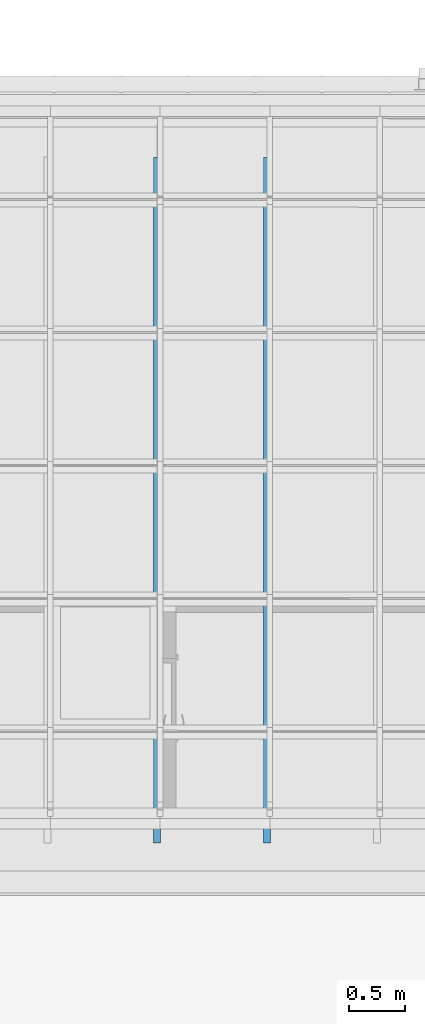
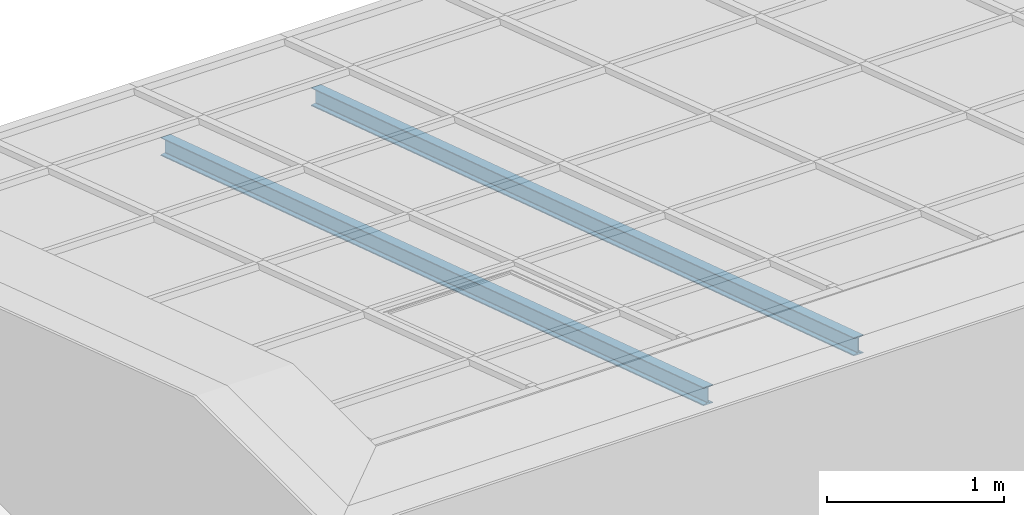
# One storey, part 2 of 47: 2 beams.
"""IFC2X3 building model written with IfcOpenShell, lengths in millimetres."""

from ifc_helpers import new_model, entity, si_unit, converted_unit, derived_unit, money_unit, point, direction, frame, frame_2d, origin_with_axes, place, context, subcontext, project, spatial, polyline, circle_curve, parameter, trimmed, segment, composite_curve, outline, extrude, clip, halfspace, material, type_object, element, save


model = new_model("IFC2X3")

# Units and contexts
model_context = context("Model", 3, precision=1e-05, world=origin_with_axes(), true_north=direction((0.0, 1.0)))
body_context = subcontext(model_context, "Body", "Model", "MODEL_VIEW")
ifc_project = project(units=[si_unit("LENGTHUNIT", "METRE", prefix="MILLI"), si_unit("AREAUNIT", "SQUARE_METRE"), si_unit("VOLUMEUNIT", "CUBIC_METRE"), converted_unit("PLANEANGLEUNIT", "DEGREE", entity("IfcPlaneAngleMeasure", 0.0174532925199), si_unit("PLANEANGLEUNIT", "RADIAN"), dimensions=[0, 0, 0, 0, 0, 0, 0]), si_unit("SOLIDANGLEUNIT", "STERADIAN"), money_unit("EUR"), converted_unit("TIMEUNIT", "Year", entity("IfcTimeMeasure", 31556926.0), si_unit("TIMEUNIT", "SECOND"), dimensions=[0, 0, 1, 0, 0, 0, 0]), si_unit("MASSUNIT", "GRAM", prefix="KILO"), si_unit("THERMODYNAMICTEMPERATUREUNIT", "DEGREE_CELSIUS"), si_unit("LUMINOUSINTENSITYUNIT", "LUMEN"), si_unit("ENERGYUNIT", "JOULE", prefix="MEGA"), derived_unit("THERMALCONDUCTANCEUNIT", [(si_unit("POWERUNIT", "WATT"), 1), (si_unit("LENGTHUNIT", "METRE"), -1), (si_unit("THERMODYNAMICTEMPERATUREUNIT", "KELVIN"), -1)]), derived_unit("SPECIFICHEATCAPACITYUNIT", [(si_unit("ENERGYUNIT", "JOULE"), 1), (si_unit("MASSUNIT", "GRAM", prefix="KILO"), -1), (si_unit("THERMODYNAMICTEMPERATUREUNIT", "KELVIN"), -1)]), derived_unit("MASSDENSITYUNIT", [(si_unit("MASSUNIT", "GRAM", prefix="KILO"), 1), (si_unit("VOLUMEUNIT", "CUBIC_METRE"), -1)])], contexts=[model_context])

# Site, building, storey
site_placement = place(None, origin_with_axes())
site = spatial("IfcSite", under=ifc_project, at=site_placement, Name="Site", CompositionType="ELEMENT")
building_placement = place(site_placement, origin_with_axes())
building = spatial("IfcBuilding", under=site, at=building_placement, Name="Building", CompositionType="ELEMENT")
storey_placement = place(building_placement, frame((0.0, 0.0, 6000.0), z_axis=(0.0, 0.0, 1.0), x_axis=(1.0, 0.0, 0.0)))
storey = spatial("IfcBuildingStorey", under=building, at=storey_placement, Name="KATUSEPLAAN", CompositionType="ELEMENT", Elevation=6000.0)

# Beams
ifc_material = material(Name="Teras (1)")
beam_type = type_object("IfcBeamType", Name="IPE 120", PredefinedType="NOTDEFINED")
beam_1_placement = place(storey_placement, frame((67193.0817676, 46947.8063411, 699.678842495), z_axis=(0.0, 0.0, 1.0), x_axis=(-1.0, 0.0, 0.0)))
element("IfcBeam", 1, at=beam_1_placement, inside=storey, type_object=beam_type, material=ifc_material, Name="I Joist - Steel", ObjectType="I Joist - Steel 64 x 120", context=body_context, shape_type="Clipping", body=[
    clip(clip(extrude(outline(composite_curve([segment(polyline([(32.0018479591, -120.000212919), (32.0018479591, -117.505222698)]), True, "CONTINUOUS"), segment(trimmed(circle_curve(frame_2d((27.3321376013, -117.498683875), x_axis=(0.999999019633, -0.00140026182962)), 4.66971493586), [point((32.0018479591, -117.505222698)), parameter(0.0)], [point((31.7461003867, -115.974488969)), parameter(19.1306436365)], True, "CARTESIAN"), True, "CONTINUOUS"), segment(trimmed(circle_curve(frame_2d((27.8471066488, -117.309508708), x_axis=(0.94607823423, 0.323938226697)), 4.12121703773), [point((31.7461003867, -115.974488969)), parameter(0.0)], [point((31.017792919, -114.676795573)), parameter(20.802576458)], True, "CARTESIAN"), True, "CONTINUOUS"), segment(trimmed(circle_curve(frame_2d((28.4090653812, -116.837495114), x_axis=(0.770140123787, 0.637874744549)), 3.38734141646), [point((31.017792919, -114.676795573)), parameter(0.0)], [point((29.9278037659, -113.809704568)), parameter(23.7281511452)], True, "CARTESIAN"), True, "CONTINUOUS"), segment(trimmed(circle_curve(frame_2d((28.6333599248, -116.404648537), x_axis=(0.446378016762, 0.89484449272)), 2.89988259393), [point((29.9278037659, -113.809704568)), parameter(0.0)], [point((29.1110817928, -113.544386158)), parameter(17.0295027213)], True, "CARTESIAN"), True, "CONTINUOUS"), segment(polyline([(29.1110817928, -113.544386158), (5.24260801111, -109.566039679)]), True, "CONTINUOUS"), segment(trimmed(circle_curve(frame_2d((5.72032987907, -106.7057773), x_axis=(-0.446378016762, -0.89484449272)), 2.89988259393), [point((5.24260801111, -109.566039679)), parameter(17.0295027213)], [point((4.42588603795, -109.300721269)), parameter(0.0)], False, "CARTESIAN"), True, "CONTINUOUS"), segment(trimmed(circle_curve(frame_2d((5.94462442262, -106.272930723), x_axis=(-0.770140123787, -0.637874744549)), 3.38734141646), [point((4.42588603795, -109.300721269)), parameter(23.7281511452)], [point((3.33589688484, -108.433630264)), parameter(0.0)], False, "CARTESIAN"), True, "CONTINUOUS"), segment(trimmed(circle_curve(frame_2d((6.5065831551, -105.800917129), x_axis=(-0.94607823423, -0.323938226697)), 4.12121703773), [point((3.33589688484, -108.433630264)), parameter(20.802576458)], [point((2.60758941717, -107.135936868)), parameter(0.0)], False, "CARTESIAN"), True, "CONTINUOUS"), segment(trimmed(circle_curve(frame_2d((7.02155220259, -105.611741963), x_axis=(-0.999999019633, 0.00140026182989)), 4.66971493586), [point((2.60758941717, -107.135936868)), parameter(19.1306436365)], [point((2.35184184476, -105.605203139)), parameter(0.0)], False, "CARTESIAN"), True, "CONTINUOUS"), segment(polyline([(2.35184184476, -105.605203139), (2.35184184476, -14.3950097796)]), True, "CONTINUOUS"), segment(trimmed(circle_curve(frame_2d((7.02155220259, -14.3884709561), x_axis=(-0.945231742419, 0.326399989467)), 4.66971493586), [point((2.35184184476, -14.3950097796)), parameter(19.1306436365)], [point((2.60758941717, -12.8642760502)), parameter(0.0)], False, "CARTESIAN"), True, "CONTINUOUS"), segment(trimmed(circle_curve(frame_2d((6.5065831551, -14.1992957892), x_axis=(-0.769356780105, 0.638819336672)), 4.12121703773), [point((2.60758941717, -12.8642760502)), parameter(20.802576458)], [point((3.33589688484, -11.5665826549)), parameter(0.0)], False, "CARTESIAN"), True, "CONTINUOUS"), segment(trimmed(circle_curve(frame_2d((5.94462442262, -13.7272821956), x_axis=(-0.44835704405, 0.893854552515)), 3.38734141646), [point((3.33589688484, -11.5665826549)), parameter(23.7281511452)], [point((4.42588603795, -10.6994916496)), parameter(0.0)], False, "CARTESIAN"), True, "CONTINUOUS"), segment(trimmed(circle_curve(frame_2d((5.72032987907, -13.2944356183), x_axis=(-0.164738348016, 0.986337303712)), 2.89988259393), [point((4.42588603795, -10.6994916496)), parameter(17.0295027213)], [point((5.24260801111, -10.4341732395)), parameter(0.0)], False, "CARTESIAN"), True, "CONTINUOUS"), segment(polyline([(5.24260801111, -10.4341732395), (29.1110817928, -6.45582676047)]), True, "CONTINUOUS"), segment(trimmed(circle_curve(frame_2d((28.6333599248, -3.59556438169), x_axis=(0.164738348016, -0.986337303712)), 2.89988259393), [point((29.1110817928, -6.45582676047)), parameter(0.0)], [point((29.9278037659, -6.19050835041)), parameter(17.0295027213)], True, "CARTESIAN"), True, "CONTINUOUS"), segment(trimmed(circle_curve(frame_2d((28.4090653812, -3.16271780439), x_axis=(0.44835704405, -0.893854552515)), 3.38734141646), [point((29.9278037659, -6.19050835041)), parameter(0.0)], [point((31.017792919, -5.32341734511)), parameter(23.7281511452)], True, "CARTESIAN"), True, "CONTINUOUS"), segment(trimmed(circle_curve(frame_2d((27.8471066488, -2.69070421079), x_axis=(0.769356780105, -0.638819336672)), 4.12121703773), [point((31.017792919, -5.32341734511)), parameter(0.0)], [point((31.7461003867, -4.02572394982)), parameter(20.802576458)], True, "CARTESIAN"), True, "CONTINUOUS"), segment(trimmed(circle_curve(frame_2d((27.3321376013, -2.50152904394), x_axis=(0.945231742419, -0.326399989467)), 4.66971493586), [point((31.7461003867, -4.02572394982)), parameter(0.0)], [point((32.0018479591, -2.49499022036)), parameter(19.1306436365)], True, "CARTESIAN"), True, "CONTINUOUS"), segment(polyline([(32.0018479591, -2.49499022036), (32.0018479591, 0.0), (-32.0018479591, 0.0), (-32.0018479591, -2.49499022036)]), True, "CONTINUOUS"), segment(trimmed(circle_curve(frame_2d((-27.3321376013, -2.50152904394), x_axis=(-0.999999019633, 0.00140026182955)), 4.66971493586), [point((-32.0018479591, -2.49499022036)), parameter(0.0)], [point((-31.7461003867, -4.02572394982)), parameter(19.1306436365)], True, "CARTESIAN"), True, "CONTINUOUS"), segment(trimmed(circle_curve(frame_2d((-27.8471066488, -2.69070421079), x_axis=(-0.94607823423, -0.323938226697)), 4.12121703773), [point((-31.7461003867, -4.02572394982)), parameter(0.0)], [point((-31.017792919, -5.32341734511)), parameter(20.802576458)], True, "CARTESIAN"), True, "CONTINUOUS"), segment(trimmed(circle_curve(frame_2d((-28.4090653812, -3.16271780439), x_axis=(-0.770140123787, -0.637874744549)), 3.38734141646), [point((-31.017792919, -5.32341734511)), parameter(0.0)], [point((-29.9278037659, -6.19050835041)), parameter(23.7281511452)], True, "CARTESIAN"), True, "CONTINUOUS"), segment(trimmed(circle_curve(frame_2d((-28.6333599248, -3.59556438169), x_axis=(-0.446378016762, -0.89484449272)), 2.89988259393), [point((-29.9278037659, -6.19050835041)), parameter(0.0)], [point((-29.1110817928, -6.45582676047)), parameter(17.0295027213)], True, "CARTESIAN"), True, "CONTINUOUS"), segment(polyline([(-29.1110817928, -6.45582676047), (-5.24260801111, -10.4341732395)]), True, "CONTINUOUS"), segment(trimmed(circle_curve(frame_2d((-5.72032987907, -13.2944356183), x_axis=(0.446378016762, 0.89484449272)), 2.89988259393), [point((-5.24260801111, -10.4341732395)), parameter(17.0295027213)], [point((-4.42588603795, -10.6994916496)), parameter(0.0)], False, "CARTESIAN"), True, "CONTINUOUS"), segment(trimmed(circle_curve(frame_2d((-5.94462442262, -13.7272821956), x_axis=(0.770140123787, 0.637874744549)), 3.38734141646), [point((-4.42588603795, -10.6994916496)), parameter(23.7281511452)], [point((-3.33589688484, -11.5665826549)), parameter(0.0)], False, "CARTESIAN"), True, "CONTINUOUS"), segment(trimmed(circle_curve(frame_2d((-6.5065831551, -14.1992957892), x_axis=(0.94607823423, 0.323938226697)), 4.12121703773), [point((-3.33589688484, -11.5665826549)), parameter(20.802576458)], [point((-2.60758941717, -12.8642760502)), parameter(0.0)], False, "CARTESIAN"), True, "CONTINUOUS"), segment(trimmed(circle_curve(frame_2d((-7.02155220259, -14.3884709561), x_axis=(0.999999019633, -0.00140026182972)), 4.66971493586), [point((-2.60758941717, -12.8642760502)), parameter(19.1306436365)], [point((-2.35184184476, -14.3950097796)), parameter(0.0)], False, "CARTESIAN"), True, "CONTINUOUS"), segment(polyline([(-2.35184184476, -14.3950097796), (-2.35184184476, -105.605203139)]), True, "CONTINUOUS"), segment(trimmed(circle_curve(frame_2d((-7.02155220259, -105.611741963), x_axis=(0.945231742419, -0.326399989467)), 4.66971493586), [point((-2.35184184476, -105.605203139)), parameter(19.1306436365)], [point((-2.60758941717, -107.135936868)), parameter(0.0)], False, "CARTESIAN"), True, "CONTINUOUS"), segment(trimmed(circle_curve(frame_2d((-6.5065831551, -105.800917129), x_axis=(0.769356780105, -0.638819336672)), 4.12121703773), [point((-2.60758941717, -107.135936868)), parameter(20.802576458)], [point((-3.33589688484, -108.433630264)), parameter(0.0)], False, "CARTESIAN"), True, "CONTINUOUS"), segment(trimmed(circle_curve(frame_2d((-5.94462442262, -106.272930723), x_axis=(0.44835704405, -0.893854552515)), 3.38734141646), [point((-3.33589688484, -108.433630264)), parameter(23.7281511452)], [point((-4.42588603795, -109.300721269)), parameter(0.0)], False, "CARTESIAN"), True, "CONTINUOUS"), segment(trimmed(circle_curve(frame_2d((-5.72032987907, -106.7057773), x_axis=(0.164738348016, -0.986337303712)), 2.89988259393), [point((-4.42588603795, -109.300721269)), parameter(17.0295027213)], [point((-5.24260801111, -109.566039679)), parameter(0.0)], False, "CARTESIAN"), True, "CONTINUOUS"), segment(polyline([(-5.24260801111, -109.566039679), (-29.1110817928, -113.544386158)]), True, "CONTINUOUS"), segment(trimmed(circle_curve(frame_2d((-28.6333599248, -116.404648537), x_axis=(-0.164738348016, 0.986337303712)), 2.89988259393), [point((-29.1110817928, -113.544386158)), parameter(0.0)], [point((-29.9278037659, -113.809704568)), parameter(17.0295027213)], True, "CARTESIAN"), True, "CONTINUOUS"), segment(trimmed(circle_curve(frame_2d((-28.4090653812, -116.837495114), x_axis=(-0.44835704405, 0.893854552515)), 3.38734141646), [point((-29.9278037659, -113.809704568)), parameter(0.0)], [point((-31.017792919, -114.676795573)), parameter(23.7281511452)], True, "CARTESIAN"), True, "CONTINUOUS"), segment(trimmed(circle_curve(frame_2d((-27.8471066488, -117.309508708), x_axis=(-0.769356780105, 0.638819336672)), 4.12121703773), [point((-31.017792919, -114.676795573)), parameter(0.0)], [point((-31.7461003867, -115.974488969)), parameter(20.802576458)], True, "CARTESIAN"), True, "CONTINUOUS"), segment(trimmed(circle_curve(frame_2d((-27.3321376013, -117.498683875), x_axis=(-0.945231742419, 0.326399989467)), 4.66971493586), [point((-31.7461003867, -115.974488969)), parameter(0.0)], [point((-32.0018479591, -117.505222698)), parameter(19.1306436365)], True, "CARTESIAN"), True, "CONTINUOUS"), segment(polyline([(-32.0018479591, -117.505222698), (-32.0018479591, -120.000212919), (32.0018479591, -120.000212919)]), True, "CONTINUOUS")], self_intersect=False)), frame((0.0, 6177.44201598, 2007.17258333), z_axis=(0.0, 0.951056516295, 0.309016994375), x_axis=(-1.0, 0.0, 0.0)), (0.0, 0.0, -1.0), 6550.487721), halfspace(frame((0.0, 6125.0, 0.0), z_axis=(0.0, -1.0, 0.0), x_axis=(0.0, 0.0, -1.0)), True)), halfspace(frame((0.0, 0.0, 0.0), z_axis=(0.0, 1.0, 0.0), x_axis=(0.0, 0.0, 1.0)), True)),
])
beam_2_placement = place(storey_placement, frame((66213.0498253, 46947.8063411, 699.678842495), z_axis=(0.0, 0.0, 1.0), x_axis=(-1.0, 0.0, 0.0)))
element("IfcBeam", 2, at=beam_2_placement, inside=storey, type_object=beam_type, material=ifc_material, Name="I Joist - Steel", ObjectType="I Joist - Steel 64 x 120", context=body_context, shape_type="Clipping", body=[
    clip(clip(extrude(outline(composite_curve([segment(polyline([(32.0018479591, -120.000212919), (32.0018479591, -117.505222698)]), True, "CONTINUOUS"), segment(trimmed(circle_curve(frame_2d((27.3321376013, -117.498683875), x_axis=(0.999999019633, -0.00140026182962)), 4.66971493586), [point((32.0018479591, -117.505222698)), parameter(0.0)], [point((31.7461003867, -115.974488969)), parameter(19.1306436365)], True, "CARTESIAN"), True, "CONTINUOUS"), segment(trimmed(circle_curve(frame_2d((27.8471066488, -117.309508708), x_axis=(0.94607823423, 0.323938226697)), 4.12121703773), [point((31.7461003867, -115.974488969)), parameter(0.0)], [point((31.017792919, -114.676795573)), parameter(20.802576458)], True, "CARTESIAN"), True, "CONTINUOUS"), segment(trimmed(circle_curve(frame_2d((28.4090653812, -116.837495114), x_axis=(0.770140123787, 0.637874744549)), 3.38734141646), [point((31.017792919, -114.676795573)), parameter(0.0)], [point((29.9278037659, -113.809704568)), parameter(23.7281511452)], True, "CARTESIAN"), True, "CONTINUOUS"), segment(trimmed(circle_curve(frame_2d((28.6333599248, -116.404648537), x_axis=(0.446378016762, 0.89484449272)), 2.89988259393), [point((29.9278037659, -113.809704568)), parameter(0.0)], [point((29.1110817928, -113.544386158)), parameter(17.0295027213)], True, "CARTESIAN"), True, "CONTINUOUS"), segment(polyline([(29.1110817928, -113.544386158), (5.24260801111, -109.566039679)]), True, "CONTINUOUS"), segment(trimmed(circle_curve(frame_2d((5.72032987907, -106.7057773), x_axis=(-0.446378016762, -0.89484449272)), 2.89988259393), [point((5.24260801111, -109.566039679)), parameter(17.0295027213)], [point((4.42588603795, -109.300721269)), parameter(0.0)], False, "CARTESIAN"), True, "CONTINUOUS"), segment(trimmed(circle_curve(frame_2d((5.94462442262, -106.272930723), x_axis=(-0.770140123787, -0.637874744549)), 3.38734141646), [point((4.42588603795, -109.300721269)), parameter(23.7281511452)], [point((3.33589688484, -108.433630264)), parameter(0.0)], False, "CARTESIAN"), True, "CONTINUOUS"), segment(trimmed(circle_curve(frame_2d((6.5065831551, -105.800917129), x_axis=(-0.94607823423, -0.323938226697)), 4.12121703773), [point((3.33589688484, -108.433630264)), parameter(20.802576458)], [point((2.60758941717, -107.135936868)), parameter(0.0)], False, "CARTESIAN"), True, "CONTINUOUS"), segment(trimmed(circle_curve(frame_2d((7.02155220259, -105.611741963), x_axis=(-0.999999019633, 0.00140026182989)), 4.66971493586), [point((2.60758941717, -107.135936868)), parameter(19.1306436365)], [point((2.35184184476, -105.605203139)), parameter(0.0)], False, "CARTESIAN"), True, "CONTINUOUS"), segment(polyline([(2.35184184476, -105.605203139), (2.35184184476, -14.3950097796)]), True, "CONTINUOUS"), segment(trimmed(circle_curve(frame_2d((7.02155220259, -14.3884709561), x_axis=(-0.945231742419, 0.326399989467)), 4.66971493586), [point((2.35184184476, -14.3950097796)), parameter(19.1306436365)], [point((2.60758941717, -12.8642760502)), parameter(0.0)], False, "CARTESIAN"), True, "CONTINUOUS"), segment(trimmed(circle_curve(frame_2d((6.5065831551, -14.1992957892), x_axis=(-0.769356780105, 0.638819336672)), 4.12121703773), [point((2.60758941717, -12.8642760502)), parameter(20.802576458)], [point((3.33589688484, -11.5665826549)), parameter(0.0)], False, "CARTESIAN"), True, "CONTINUOUS"), segment(trimmed(circle_curve(frame_2d((5.94462442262, -13.7272821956), x_axis=(-0.44835704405, 0.893854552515)), 3.38734141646), [point((3.33589688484, -11.5665826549)), parameter(23.7281511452)], [point((4.42588603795, -10.6994916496)), parameter(0.0)], False, "CARTESIAN"), True, "CONTINUOUS"), segment(trimmed(circle_curve(frame_2d((5.72032987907, -13.2944356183), x_axis=(-0.164738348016, 0.986337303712)), 2.89988259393), [point((4.42588603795, -10.6994916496)), parameter(17.0295027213)], [point((5.24260801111, -10.4341732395)), parameter(0.0)], False, "CARTESIAN"), True, "CONTINUOUS"), segment(polyline([(5.24260801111, -10.4341732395), (29.1110817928, -6.45582676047)]), True, "CONTINUOUS"), segment(trimmed(circle_curve(frame_2d((28.6333599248, -3.59556438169), x_axis=(0.164738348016, -0.986337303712)), 2.89988259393), [point((29.1110817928, -6.45582676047)), parameter(0.0)], [point((29.9278037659, -6.19050835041)), parameter(17.0295027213)], True, "CARTESIAN"), True, "CONTINUOUS"), segment(trimmed(circle_curve(frame_2d((28.4090653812, -3.16271780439), x_axis=(0.44835704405, -0.893854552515)), 3.38734141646), [point((29.9278037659, -6.19050835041)), parameter(0.0)], [point((31.017792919, -5.32341734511)), parameter(23.7281511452)], True, "CARTESIAN"), True, "CONTINUOUS"), segment(trimmed(circle_curve(frame_2d((27.8471066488, -2.69070421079), x_axis=(0.769356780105, -0.638819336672)), 4.12121703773), [point((31.017792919, -5.32341734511)), parameter(0.0)], [point((31.7461003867, -4.02572394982)), parameter(20.802576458)], True, "CARTESIAN"), True, "CONTINUOUS"), segment(trimmed(circle_curve(frame_2d((27.3321376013, -2.50152904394), x_axis=(0.945231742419, -0.326399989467)), 4.66971493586), [point((31.7461003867, -4.02572394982)), parameter(0.0)], [point((32.0018479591, -2.49499022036)), parameter(19.1306436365)], True, "CARTESIAN"), True, "CONTINUOUS"), segment(polyline([(32.0018479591, -2.49499022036), (32.0018479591, 0.0), (-32.0018479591, 0.0), (-32.0018479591, -2.49499022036)]), True, "CONTINUOUS"), segment(trimmed(circle_curve(frame_2d((-27.3321376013, -2.50152904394), x_axis=(-0.999999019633, 0.00140026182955)), 4.66971493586), [point((-32.0018479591, -2.49499022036)), parameter(0.0)], [point((-31.7461003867, -4.02572394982)), parameter(19.1306436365)], True, "CARTESIAN"), True, "CONTINUOUS"), segment(trimmed(circle_curve(frame_2d((-27.8471066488, -2.69070421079), x_axis=(-0.94607823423, -0.323938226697)), 4.12121703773), [point((-31.7461003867, -4.02572394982)), parameter(0.0)], [point((-31.017792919, -5.32341734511)), parameter(20.802576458)], True, "CARTESIAN"), True, "CONTINUOUS"), segment(trimmed(circle_curve(frame_2d((-28.4090653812, -3.16271780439), x_axis=(-0.770140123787, -0.637874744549)), 3.38734141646), [point((-31.017792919, -5.32341734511)), parameter(0.0)], [point((-29.9278037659, -6.19050835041)), parameter(23.7281511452)], True, "CARTESIAN"), True, "CONTINUOUS"), segment(trimmed(circle_curve(frame_2d((-28.6333599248, -3.59556438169), x_axis=(-0.446378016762, -0.89484449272)), 2.89988259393), [point((-29.9278037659, -6.19050835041)), parameter(0.0)], [point((-29.1110817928, -6.45582676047)), parameter(17.0295027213)], True, "CARTESIAN"), True, "CONTINUOUS"), segment(polyline([(-29.1110817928, -6.45582676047), (-5.24260801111, -10.4341732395)]), True, "CONTINUOUS"), segment(trimmed(circle_curve(frame_2d((-5.72032987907, -13.2944356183), x_axis=(0.446378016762, 0.89484449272)), 2.89988259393), [point((-5.24260801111, -10.4341732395)), parameter(17.0295027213)], [point((-4.42588603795, -10.6994916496)), parameter(0.0)], False, "CARTESIAN"), True, "CONTINUOUS"), segment(trimmed(circle_curve(frame_2d((-5.94462442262, -13.7272821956), x_axis=(0.770140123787, 0.637874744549)), 3.38734141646), [point((-4.42588603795, -10.6994916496)), parameter(23.7281511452)], [point((-3.33589688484, -11.5665826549)), parameter(0.0)], False, "CARTESIAN"), True, "CONTINUOUS"), segment(trimmed(circle_curve(frame_2d((-6.5065831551, -14.1992957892), x_axis=(0.94607823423, 0.323938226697)), 4.12121703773), [point((-3.33589688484, -11.5665826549)), parameter(20.802576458)], [point((-2.60758941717, -12.8642760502)), parameter(0.0)], False, "CARTESIAN"), True, "CONTINUOUS"), segment(trimmed(circle_curve(frame_2d((-7.02155220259, -14.3884709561), x_axis=(0.999999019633, -0.00140026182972)), 4.66971493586), [point((-2.60758941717, -12.8642760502)), parameter(19.1306436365)], [point((-2.35184184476, -14.3950097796)), parameter(0.0)], False, "CARTESIAN"), True, "CONTINUOUS"), segment(polyline([(-2.35184184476, -14.3950097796), (-2.35184184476, -105.605203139)]), True, "CONTINUOUS"), segment(trimmed(circle_curve(frame_2d((-7.02155220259, -105.611741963), x_axis=(0.945231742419, -0.326399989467)), 4.66971493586), [point((-2.35184184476, -105.605203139)), parameter(19.1306436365)], [point((-2.60758941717, -107.135936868)), parameter(0.0)], False, "CARTESIAN"), True, "CONTINUOUS"), segment(trimmed(circle_curve(frame_2d((-6.5065831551, -105.800917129), x_axis=(0.769356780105, -0.638819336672)), 4.12121703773), [point((-2.60758941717, -107.135936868)), parameter(20.802576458)], [point((-3.33589688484, -108.433630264)), parameter(0.0)], False, "CARTESIAN"), True, "CONTINUOUS"), segment(trimmed(circle_curve(frame_2d((-5.94462442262, -106.272930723), x_axis=(0.44835704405, -0.893854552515)), 3.38734141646), [point((-3.33589688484, -108.433630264)), parameter(23.7281511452)], [point((-4.42588603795, -109.300721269)), parameter(0.0)], False, "CARTESIAN"), True, "CONTINUOUS"), segment(trimmed(circle_curve(frame_2d((-5.72032987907, -106.7057773), x_axis=(0.164738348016, -0.986337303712)), 2.89988259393), [point((-4.42588603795, -109.300721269)), parameter(17.0295027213)], [point((-5.24260801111, -109.566039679)), parameter(0.0)], False, "CARTESIAN"), True, "CONTINUOUS"), segment(polyline([(-5.24260801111, -109.566039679), (-29.1110817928, -113.544386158)]), True, "CONTINUOUS"), segment(trimmed(circle_curve(frame_2d((-28.6333599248, -116.404648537), x_axis=(-0.164738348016, 0.986337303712)), 2.89988259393), [point((-29.1110817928, -113.544386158)), parameter(0.0)], [point((-29.9278037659, -113.809704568)), parameter(17.0295027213)], True, "CARTESIAN"), True, "CONTINUOUS"), segment(trimmed(circle_curve(frame_2d((-28.4090653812, -116.837495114), x_axis=(-0.44835704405, 0.893854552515)), 3.38734141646), [point((-29.9278037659, -113.809704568)), parameter(0.0)], [point((-31.017792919, -114.676795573)), parameter(23.7281511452)], True, "CARTESIAN"), True, "CONTINUOUS"), segment(trimmed(circle_curve(frame_2d((-27.8471066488, -117.309508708), x_axis=(-0.769356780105, 0.638819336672)), 4.12121703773), [point((-31.017792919, -114.676795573)), parameter(0.0)], [point((-31.7461003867, -115.974488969)), parameter(20.802576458)], True, "CARTESIAN"), True, "CONTINUOUS"), segment(trimmed(circle_curve(frame_2d((-27.3321376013, -117.498683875), x_axis=(-0.945231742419, 0.326399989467)), 4.66971493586), [point((-31.7461003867, -115.974488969)), parameter(0.0)], [point((-32.0018479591, -117.505222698)), parameter(19.1306436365)], True, "CARTESIAN"), True, "CONTINUOUS"), segment(polyline([(-32.0018479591, -117.505222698), (-32.0018479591, -120.000212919), (32.0018479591, -120.000212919)]), True, "CONTINUOUS")], self_intersect=False)), frame((0.0, 6177.44201598, 2007.17258333), z_axis=(0.0, 0.951056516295, 0.309016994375), x_axis=(-1.0, 0.0, 0.0)), (0.0, 0.0, -1.0), 6550.487721), halfspace(frame((0.0, 6125.0, 0.0), z_axis=(0.0, -1.0, 0.0), x_axis=(0.0, 0.0, -1.0)), True)), halfspace(frame((0.0, 0.0, 0.0), z_axis=(0.0, 1.0, 0.0), x_axis=(0.0, 0.0, 1.0)), True)),
])

save(model, "model.ifc")
